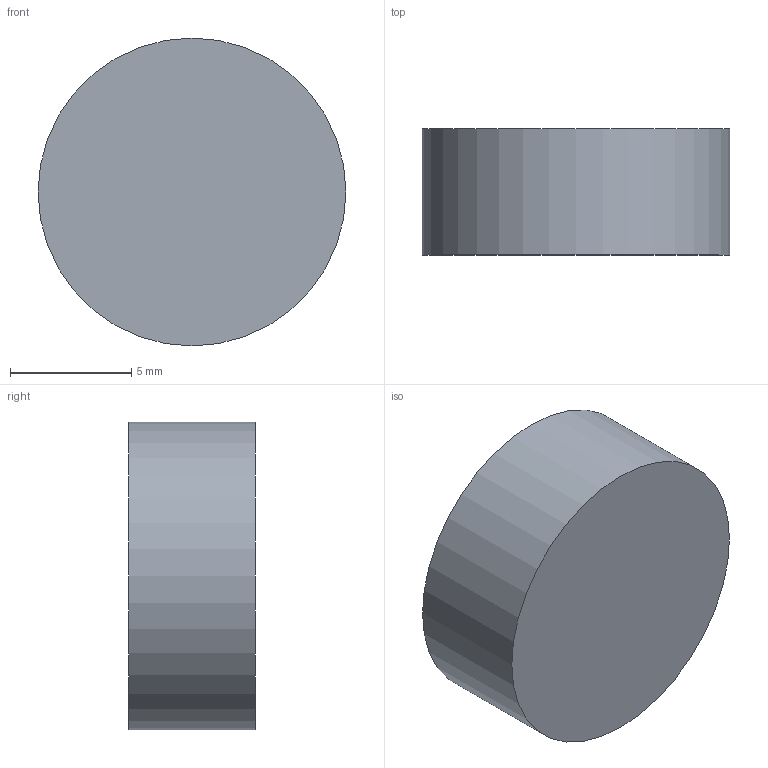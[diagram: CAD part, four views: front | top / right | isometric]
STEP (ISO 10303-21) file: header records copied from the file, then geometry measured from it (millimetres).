
FILE_DESCRIPTION(/* description */ (''),/* implementation_level */ '2;1');
FILE_NAME(/* name */ 'D:\PRJ\70cm Combiner\M-CAD\Spacer.stp',/* time_stamp */ '2025-01-16T10:11:14+01:00',/* author */ ('Carsten Grøn'),/* organization */ (''),/* preprocessor_version */ 'ST-DEVELOPER v18',/* originating_system */ 'Autodesk Inventor 2020',/* authorisation */ '');
FILE_SCHEMA (('CONFIG_CONTROL_DESIGN'));
Length unit declared in the file: millimetre
Products named in the file (1): Spacer
Bounding box: 12.7 x 5.21 x 12.7 mm (x, y, z)
Volume: 659.6 mm3; surface area: 461.1 mm2
Topology: 1 solids, 1 shells, 3 faces, 5 edges, 4 vertices
Faces by surface type: plane 2, cylinder 1
Full cylindrical faces by diameter (mm): 12.7 x1
Entity records: 120 total; most frequent: DIRECTION 17, CARTESIAN_POINT 13, ORIENTED_EDGE 10, AXIS2_PLACEMENT_3D 8, EDGE_CURVE 5, CIRCLE 4, VERTEX_POINT 4, FACE_OUTER_BOUND 3
